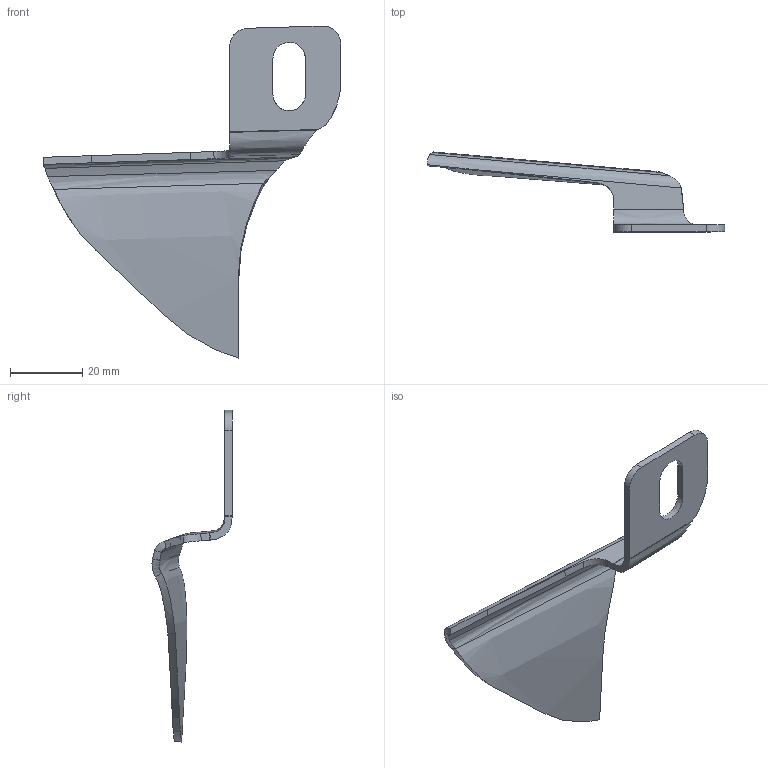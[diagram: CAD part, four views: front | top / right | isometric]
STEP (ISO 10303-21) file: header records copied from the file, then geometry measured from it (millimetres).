
FILE_DESCRIPTION(('CATIA V5 STEP Exchange'),'2;1');
FILE_NAME('S:\04 Engineering\006 CAD\001-AUFTRÄGE\P100107 JD SIDEPANEL\_Bauteil\_aktuell\Verstaerkung\Part1.stp','2011-09-28T08:08:35+00:00',('none'),('none'),'CATIA Version 5 Release 19 SP 8 (IN-10)','CATIA V5 STEP AP203','none');
FILE_SCHEMA(('CONFIG_CONTROL_DESIGN'));
Length unit declared in the file: millimetre
Products named in the file (1): Verstärkung Sidepanel
Bounding box: 82.41 x 22.21 x 92.01 mm (x, y, z)
Volume: 6450.1 mm3; surface area: 7172.8 mm2
Topology: 1 solids, 1 shells, 52 faces, 118 edges, 68 vertices
Faces by surface type: bspline 35, plane 11, extrusion 4, cylinder 2
Entity records: 3224 total; most frequent: CARTESIAN_POINT 2320, ORIENTED_EDGE 236, EDGE_CURVE 118, B_SPLINE_CURVE_WITH_KNOTS 96, VERTEX_POINT 68, DIRECTION 56, EDGE_LOOP 54, ADVANCED_FACE 52
